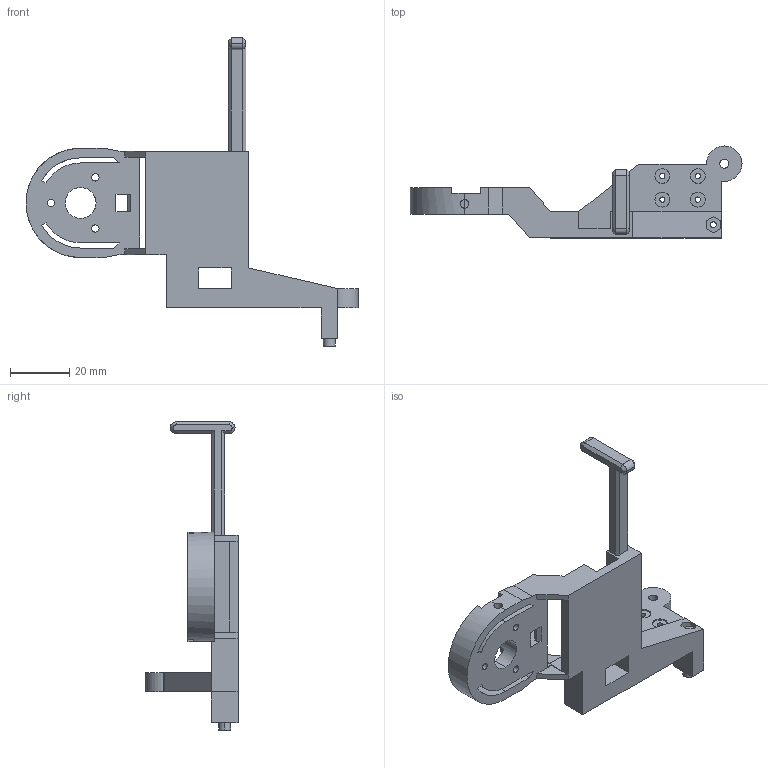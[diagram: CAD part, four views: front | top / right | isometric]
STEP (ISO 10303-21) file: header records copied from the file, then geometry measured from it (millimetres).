
FILE_DESCRIPTION(('Open CASCADE Model'),'2;1');
FILE_NAME('left-fingertip-support.step','2026-11-14T14:31:50',('Author') ,('Open CASCADE'),'Open CASCADE STEP processor 8.0','Open CASCADE 8.0' ,'Unknown');
FILE_SCHEMA(('AP242_MANAGED_MODEL_BASED_3D_ENGINEERING_MIM_LF {1 0 10303 442 1 1 4 }' ));
Length unit declared in the file: millimetre
Products named in the file (1): Left Fingertip Support
Bounding box: 112.52 x 31.2 x 104.46 mm (x, y, z)
Volume: 24552.7 mm3; surface area: 15025.4 mm2
Topology: 1 solids, 1 shells, 194 faces, 545 edges, 351 vertices
Faces by surface type: plane 120, cylinder 56, cone 18
Entity records: 14328 total; most frequent: CARTESIAN_POINT 3367, DIRECTION 2081, LINE 1345, VECTOR 1345, ORIENTED_EDGE 1086, PCURVE 1086, DEFINITIONAL_REPRESENTATION 1086, EDGE_CURVE 543
